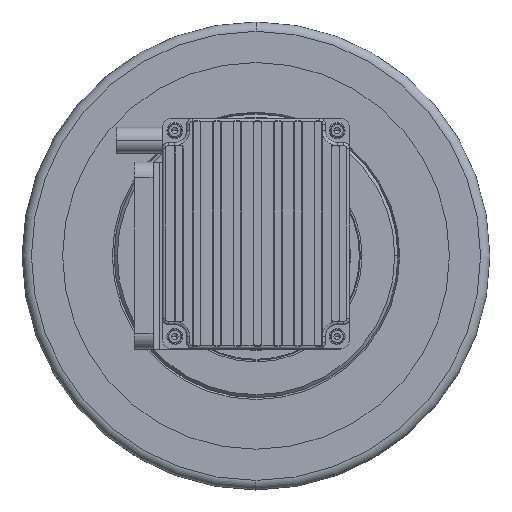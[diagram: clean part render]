
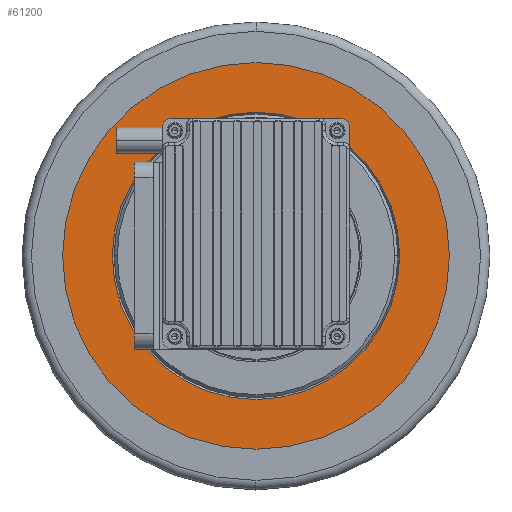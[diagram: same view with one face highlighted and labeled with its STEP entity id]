
A CAD part, top view. The second image highlights one B-rep face of the part: STEP entity #61200.
In plain terms, the highlighted planar face has unit normal (0, 0, 1).
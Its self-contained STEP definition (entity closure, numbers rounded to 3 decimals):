
#5345 = EDGE_LOOP ( 'NONE', ( #51882, #13275, #6912 ) ) ;
#6912 = ORIENTED_EDGE ( 'NONE', *, *, #61473, .T. ) ;
#9552 = EDGE_CURVE ( 'NONE', #42326, #44496, #10101, .T. ) ;
#10101 = CIRCLE ( 'NONE', #58405, 46.077 ) ;
#10670 = DIRECTION ( 'NONE',  ( 0., -1., 0. ) ) ;
#12084 = CARTESIAN_POINT ( 'NONE',  ( 0., -62., 153.725 ) ) ;
#13132 = CIRCLE ( 'NONE', #63790, 62. ) ;
#13275 = ORIENTED_EDGE ( 'NONE', *, *, #9552, .T. ) ;
#13722 = CARTESIAN_POINT ( 'NONE',  ( 0., 0., 153.725 ) ) ;
#16399 = CARTESIAN_POINT ( 'NONE',  ( 0., 0., 153.725 ) ) ;
#17039 = DIRECTION ( 'NONE',  ( 0., 0., -1. ) ) ;
#17098 = EDGE_CURVE ( 'NONE', #18309, #54567, #30652, .T. ) ;
#18309 = VERTEX_POINT ( 'NONE', #12084 ) ;
#18384 = EDGE_CURVE ( 'NONE', #58499, #42326, #26321, .T. ) ;
#20251 = CARTESIAN_POINT ( 'NONE',  ( -46.077, 0., 153.725 ) ) ;
#20438 = AXIS2_PLACEMENT_3D ( 'NONE', #16399, #25941, #37898 ) ;
#20699 = DIRECTION ( 'NONE',  ( 0., 0., -1. ) ) ;
#20741 = CARTESIAN_POINT ( 'NONE',  ( 0., -46.077, 153.725 ) ) ;
#21610 = DIRECTION ( 'NONE',  ( 0., 0., -1. ) ) ;
#21691 = FACE_BOUND ( 'NONE', #5345, .T. ) ;
#24314 = DIRECTION ( 'NONE',  ( 0., -1., 0. ) ) ;
#25941 = DIRECTION ( 'NONE',  ( 0., 0., -1. ) ) ;
#26221 = CARTESIAN_POINT ( 'NONE',  ( 0., 0., 153.725 ) ) ;
#26321 = CIRCLE ( 'NONE', #62376, 46.077 ) ;
#27635 = ORIENTED_EDGE ( 'NONE', *, *, #17098, .F. ) ;
#28951 = DIRECTION ( 'NONE',  ( 0., 1., 0. ) ) ;
#29659 = DIRECTION ( 'NONE',  ( 0., 0., -1. ) ) ;
#30449 = CIRCLE ( 'NONE', #34926, 46.077 ) ;
#30652 = CIRCLE ( 'NONE', #48683, 62. ) ;
#34926 = AXIS2_PLACEMENT_3D ( 'NONE', #26221, #21610, #10670 ) ;
#34945 = CARTESIAN_POINT ( 'NONE',  ( 0., 0., 153.725 ) ) ;
#37898 = DIRECTION ( 'NONE',  ( 0., 1., 0. ) ) ;
#38546 = DIRECTION ( 'NONE',  ( 0., 1., 0. ) ) ;
#42326 = VERTEX_POINT ( 'NONE', #20741 ) ;
#43207 = FACE_OUTER_BOUND ( 'NONE', #67578, .T. ) ;
#44496 = VERTEX_POINT ( 'NONE', #20251 ) ;
#47855 = DIRECTION ( 'NONE',  ( 0., -1., 0. ) ) ;
#48683 = AXIS2_PLACEMENT_3D ( 'NONE', #13722, #50756, #24314 ) ;
#49262 = EDGE_CURVE ( 'NONE', #54567, #18309, #13132, .T. ) ;
#49890 = CARTESIAN_POINT ( 'NONE',  ( 0., 46.077, 153.725 ) ) ;
#50756 = DIRECTION ( 'NONE',  ( 0., 0., -1. ) ) ;
#51882 = ORIENTED_EDGE ( 'NONE', *, *, #18384, .T. ) ;
#52144 = CARTESIAN_POINT ( 'NONE',  ( 0., 62., 153.725 ) ) ;
#54477 = PLANE ( 'NONE',  #20438 ) ;
#54567 = VERTEX_POINT ( 'NONE', #52144 ) ;
#58405 = AXIS2_PLACEMENT_3D ( 'NONE', #69712, #20699, #47855 ) ;
#58499 = VERTEX_POINT ( 'NONE', #49890 ) ;
#61200 = ADVANCED_FACE ( 'NONE', ( #21691, #43207 ), #54477, .F. ) ;
#61473 = EDGE_CURVE ( 'NONE', #44496, #58499, #30449, .T. ) ;
#62376 = AXIS2_PLACEMENT_3D ( 'NONE', #65359, #17039, #38546 ) ;
#63790 = AXIS2_PLACEMENT_3D ( 'NONE', #34945, #29659, #28951 ) ;
#64954 = ORIENTED_EDGE ( 'NONE', *, *, #49262, .F. ) ;
#65359 = CARTESIAN_POINT ( 'NONE',  ( 0., 0., 153.725 ) ) ;
#67578 = EDGE_LOOP ( 'NONE', ( #27635, #64954 ) ) ;
#69712 = CARTESIAN_POINT ( 'NONE',  ( 0., 0., 153.725 ) ) ;
